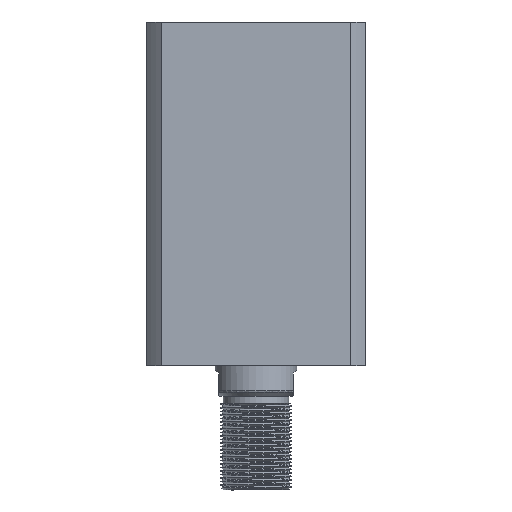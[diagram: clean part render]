
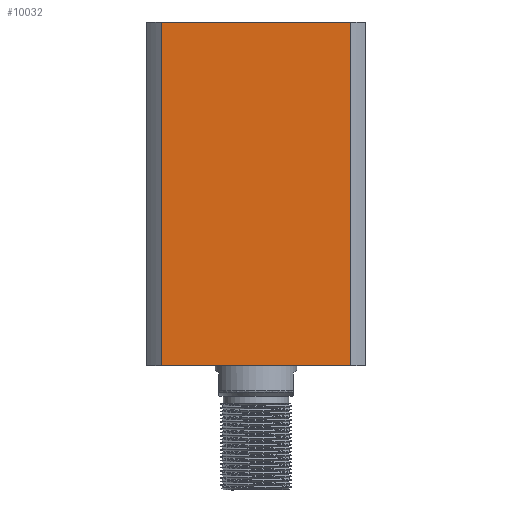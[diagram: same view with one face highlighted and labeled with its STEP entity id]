
A CAD part, front view. The second image highlights one B-rep face of the part: STEP entity #10032.
In plain terms, the highlighted planar face has unit normal (0, -1, 0) as drawn and (0, 1, 0) by its records, which use the part's own axes.
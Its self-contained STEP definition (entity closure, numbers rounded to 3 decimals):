
#606 = EDGE_CURVE ( 'NONE', #1097, #20123, #16828, .T. ) ;
#1097 = VERTEX_POINT ( 'NONE', #8432 ) ;
#1725 = CARTESIAN_POINT ( 'NONE',  ( 40.435, 47., -453. ) ) ;
#2553 = VERTEX_POINT ( 'NONE', #11109 ) ;
#3372 = DIRECTION ( 'NONE',  ( 0., 0., -1. ) ) ;
#3619 = CARTESIAN_POINT ( 'NONE',  ( -47., 47., 147. ) ) ;
#3944 = ORIENTED_EDGE ( 'NONE', *, *, #19648, .F. ) ;
#4149 = EDGE_LOOP ( 'NONE', ( #6442, #9719, #15928, #3944 ) ) ;
#5458 = EDGE_CURVE ( 'NONE', #1097, #21777, #15439, .T. ) ;
#5503 = AXIS2_PLACEMENT_3D ( 'NONE', #3619, #21049, #10851 ) ;
#6442 = ORIENTED_EDGE ( 'NONE', *, *, #5458, .F. ) ;
#7042 = DIRECTION ( 'NONE',  ( 0., 0., 1. ) ) ;
#7574 = VECTOR ( 'NONE', #21300, 1000. ) ;
#8432 = CARTESIAN_POINT ( 'NONE',  ( 40.435, 47., 0. ) ) ;
#9240 = VECTOR ( 'NONE', #3372, 1000. ) ;
#9719 = ORIENTED_EDGE ( 'NONE', *, *, #606, .T. ) ;
#10032 = ADVANCED_FACE ( 'NONE', ( #17493 ), #19339, .F. ) ;
#10197 = DIRECTION ( 'NONE',  ( -1., 0., 0. ) ) ;
#10851 = DIRECTION ( 'NONE',  ( 0., 0., -1. ) ) ;
#10861 = VECTOR ( 'NONE', #7042, 1000. ) ;
#11109 = CARTESIAN_POINT ( 'NONE',  ( -40.435, 47., 147. ) ) ;
#11413 = VECTOR ( 'NONE', #10197, 1000. ) ;
#12683 = CARTESIAN_POINT ( 'NONE',  ( -40.435, 47., 0. ) ) ;
#13881 = LINE ( 'NONE', #13933, #9240 ) ;
#13933 = CARTESIAN_POINT ( 'NONE',  ( -40.435, 47., -453. ) ) ;
#14007 = CARTESIAN_POINT ( 'NONE',  ( 40.435, 47., 147. ) ) ;
#15439 = LINE ( 'NONE', #1725, #10861 ) ;
#15928 = ORIENTED_EDGE ( 'NONE', *, *, #16923, .F. ) ;
#15978 = LINE ( 'NONE', #17035, #11413 ) ;
#16828 = LINE ( 'NONE', #17461, #7574 ) ;
#16923 = EDGE_CURVE ( 'NONE', #2553, #20123, #13881, .T. ) ;
#17035 = CARTESIAN_POINT ( 'NONE',  ( -47., 47., 147. ) ) ;
#17461 = CARTESIAN_POINT ( 'NONE',  ( -47., 47., 0. ) ) ;
#17493 = FACE_OUTER_BOUND ( 'NONE', #4149, .T. ) ;
#19339 = PLANE ( 'NONE',  #5503 ) ;
#19648 = EDGE_CURVE ( 'NONE', #21777, #2553, #15978, .T. ) ;
#20123 = VERTEX_POINT ( 'NONE', #12683 ) ;
#21049 = DIRECTION ( 'NONE',  ( 0., -1., 0. ) ) ;
#21300 = DIRECTION ( 'NONE',  ( -1., 0., 0. ) ) ;
#21777 = VERTEX_POINT ( 'NONE', #14007 ) ;
